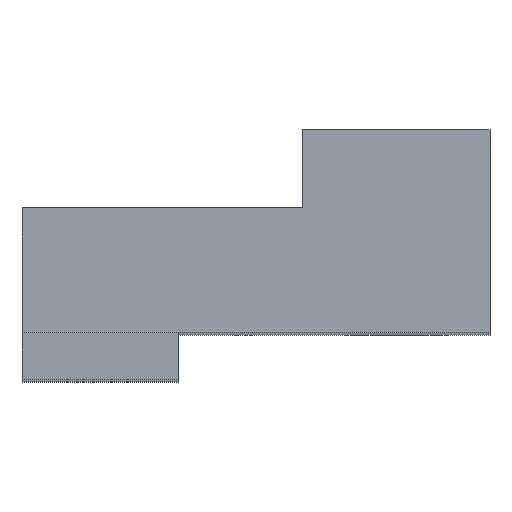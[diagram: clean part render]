
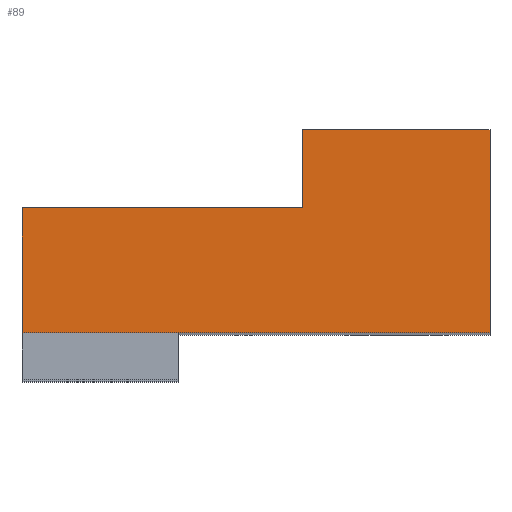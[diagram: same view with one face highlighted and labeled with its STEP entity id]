
A CAD part, top view. The second image highlights one B-rep face of the part: STEP entity #89.
In plain terms, the highlighted planar face has unit normal (0, 0, 1).
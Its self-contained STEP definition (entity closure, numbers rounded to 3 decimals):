
#89=ADVANCED_FACE('',(#253),#255,.T.);
#253=FACE_BOUND('',#254,.T.);
#254=EDGE_LOOP('',(#379,#380,#381,#382,#383,#384));
#255=PLANE('',#256);
#256=AXIS2_PLACEMENT_3D('',#257,#258,#259);
#257=CARTESIAN_POINT('',(5.,0.,52.5));
#258=DIRECTION('',(0.,0.,1.));
#259=DIRECTION('',(1.,0.,0.));
#379=ORIENTED_EDGE('',*,*,#456,.T.);
#380=ORIENTED_EDGE('',*,*,#468,.T.);
#381=ORIENTED_EDGE('',*,*,#448,.F.);
#382=ORIENTED_EDGE('',*,*,#466,.F.);
#383=ORIENTED_EDGE('',*,*,#469,.F.);
#384=ORIENTED_EDGE('',*,*,#470,.F.);
#448=EDGE_CURVE('',#496,#498,#499,.T.);
#456=EDGE_CURVE('',#514,#512,#515,.T.);
#466=EDGE_CURVE('',#532,#496,#534,.T.);
#468=EDGE_CURVE('',#512,#498,#536,.T.);
#469=EDGE_CURVE('',#537,#532,#538,.T.);
#470=EDGE_CURVE('',#514,#537,#539,.T.);
#496=VERTEX_POINT('',#580);
#498=VERTEX_POINT('',#584);
#499=LINE('',#585,#586);
#512=VERTEX_POINT('',#613);
#514=VERTEX_POINT('',#617);
#515=LINE('',#618,#619);
#532=VERTEX_POINT('',#654);
#534=LINE('',#658,#659);
#536=LINE('',#664,#665);
#537=VERTEX_POINT('',#667);
#538=LINE('',#668,#669);
#539=LINE('',#671,#672);
#580=CARTESIAN_POINT('',(23.,13.,52.5));
#584=CARTESIAN_POINT('',(35.,13.,52.5));
#585=CARTESIAN_POINT('',(23.,13.,52.5));
#586=VECTOR('',#587,1.);
#587=DIRECTION('',(1.,0.,0.));
#613=CARTESIAN_POINT('',(35.,0.,52.5));
#617=CARTESIAN_POINT('',(5.,0.,52.5));
#618=CARTESIAN_POINT('',(5.,0.,52.5));
#619=VECTOR('',#620,1.);
#620=DIRECTION('',(1.,0.,0.));
#654=CARTESIAN_POINT('',(23.,8.,52.5));
#658=CARTESIAN_POINT('',(23.,8.,52.5));
#659=VECTOR('',#660,1.);
#660=DIRECTION('',(0.,1.,0.));
#664=CARTESIAN_POINT('',(35.,0.,52.5));
#665=VECTOR('',#666,1.);
#666=DIRECTION('',(0.,1.,0.));
#667=CARTESIAN_POINT('',(5.,8.,52.5));
#668=CARTESIAN_POINT('',(5.,8.,52.5));
#669=VECTOR('',#670,1.);
#670=DIRECTION('',(1.,0.,0.));
#671=CARTESIAN_POINT('',(5.,0.,52.5));
#672=VECTOR('',#673,1.);
#673=DIRECTION('',(0.,1.,0.));
